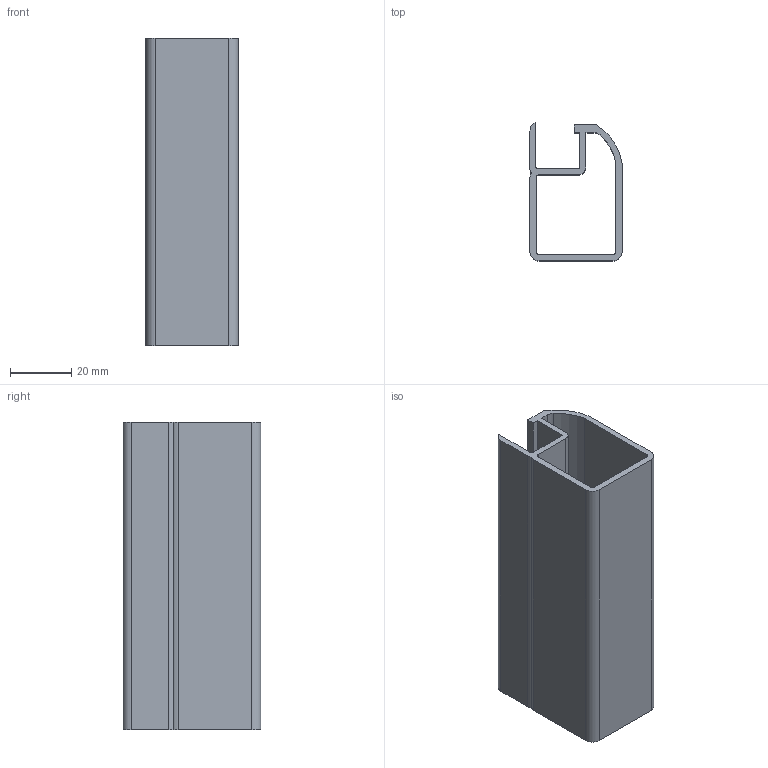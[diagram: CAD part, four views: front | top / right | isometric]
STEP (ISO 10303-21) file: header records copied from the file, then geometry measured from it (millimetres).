
FILE_DESCRIPTION (( 'STEP AP203' ), '1' );
FILE_NAME ('013.030.006.STEP', '2020-09-18T14:20:27', ( '' ), ( '' ), 'SwSTEP 2.0', 'SolidWorks 2018', '' );
FILE_SCHEMA (( 'CONFIG_CONTROL_DESIGN' ));
Length unit declared in the file: millimetre
Products named in the file (1): 013.030.006
Bounding box: 30 x 44.9 x 100 mm (x, y, z)
Volume: 29833.1 mm3; surface area: 30335.6 mm2
Topology: 1 solids, 1 shells, 36 faces, 102 edges, 68 vertices
Faces by surface type: plane 18, cylinder 17, bspline 1
Entity records: 1267 total; most frequent: CARTESIAN_POINT 220, DIRECTION 206, ORIENTED_EDGE 204, EDGE_CURVE 102, AXIS2_PLACEMENT_3D 70, VERTEX_POINT 68, LINE 66, VECTOR 66
